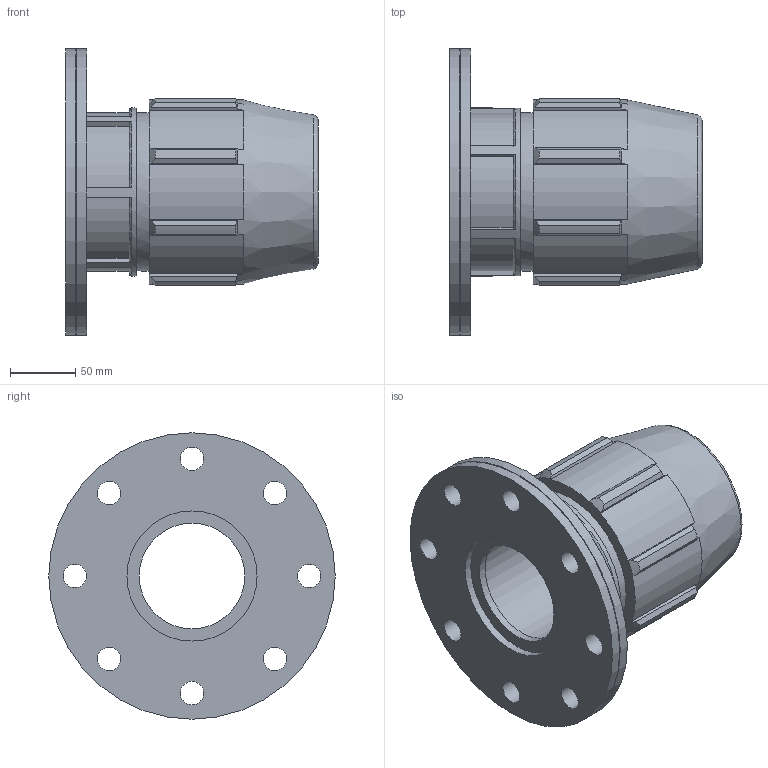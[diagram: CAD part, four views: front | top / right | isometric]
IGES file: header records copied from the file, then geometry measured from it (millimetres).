
Global section: file name: 872200090040_182200090040.ipt; native system: Autodesk Inventor 2015; preprocessor: unknown; author: KIM; date: 20170608.042636; units: millimetre
Bounding box: 194 x 220 x 220 mm (x, y, z)
Volume: 1794133.2 mm3; surface area: 230024.3 mm2
Topology: 1 solids, 1 shells, 131 faces, 373 edges, 251 vertices
Faces by surface type: plane 59, cylinder 26, revolution 25, cone 21
Full cylindrical faces by diameter (mm): 121.6 x1, 129.2 x1, 220 x2
